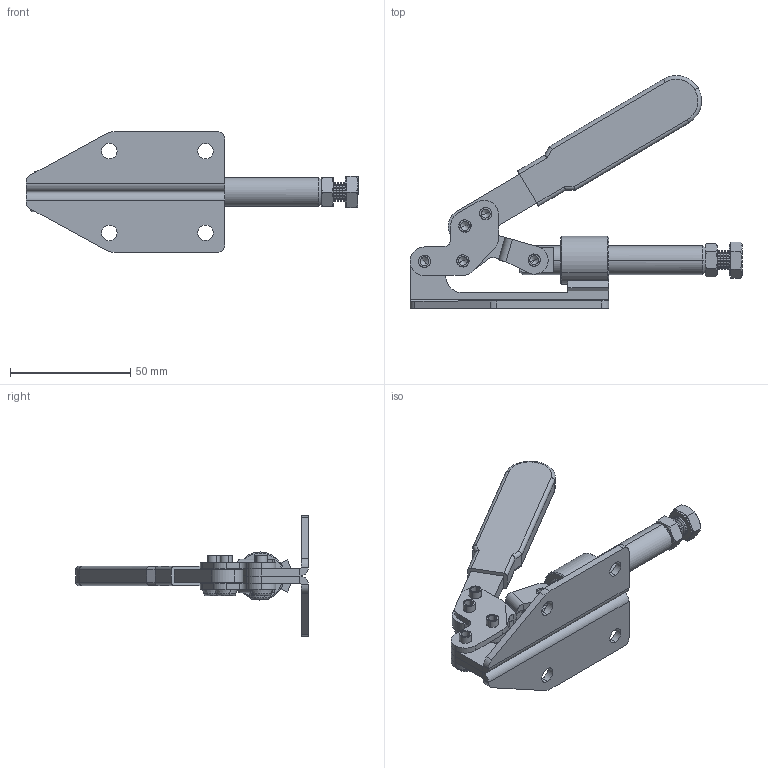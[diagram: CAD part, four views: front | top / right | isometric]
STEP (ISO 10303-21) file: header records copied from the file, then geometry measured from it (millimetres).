
FILE_DESCRIPTION (( 'STEP AP214' ), '1' );
FILE_NAME ('ISK-020.STEP', '2015-06-29T09:54:28', ( '' ), ( '' ), 'SwSTEP 2.0', 'SolidWorks 2015', '' );
FILE_SCHEMA (( 'AUTOMOTIVE_DESIGN' ));
Length unit declared in the file: millimetre
Products named in the file (13): cone head semi-tubuler rivets gb_GB_OTHERRIVETS_TYPE89 5X14; hexagon nut_3 small_jis_JIS B 1181 Small hexagon nut - Class 3 Finished M8 --N; continuous thread hexagon head bolt_a_jis_JIS B 1180 Continuous thread hexagon head bolt A M8 x 30 --S; Grip; Link; Handle_stay; Handle; Arm; Base Assy; Guide; Base-L; Base-R; ISK-020
Assembly tree (17 placements, depth 3):
  ISK-020
    Base Assy
      Base-R
      Base-L
      Guide
    Arm
    Handle
    Handle_stay  x2
    Link
    Grip
    continuous thread hexagon head bolt_a_jis_JIS B 1180 Continuous thread hexagon head bolt A M8 x 30 --S
    hexagon nut_3 small_jis_JIS B 1181 Small hexagon nut - Class 3 Finished M8 --N
    cone head semi-tubuler rivets gb_GB_OTHERRIVETS_TYPE89 5X14  x5
Bounding box: 137.91 x 96.66 x 50 mm (x, y, z)
Volume: 49248.9 mm3; surface area: 39985.1 mm2
Topology: 17 solids, 17 shells, 538 faces, 1291 edges, 788 vertices
Faces by surface type: cylinder 193, plane 161, cone 154, torus 26, bspline 4
Entity records: 14205 total; most frequent: CARTESIAN_POINT 2644, DIRECTION 2488, ORIENTED_EDGE 2208, EDGE_CURVE 1104, AXIS2_PLACEMENT_3D 978, VERTEX_POINT 678, VECTOR 532, LINE 532
